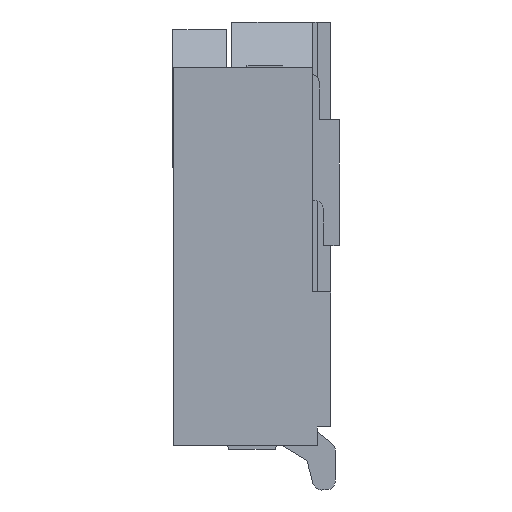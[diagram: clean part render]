
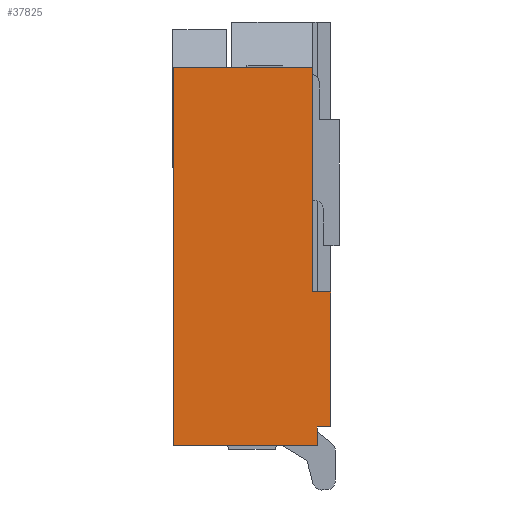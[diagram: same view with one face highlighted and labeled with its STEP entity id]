
A CAD part, left-side view. The second image highlights one B-rep face of the part: STEP entity #37825.
In plain terms, the highlighted planar face has unit normal (-1, 0, 0).
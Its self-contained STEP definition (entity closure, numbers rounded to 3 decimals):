
#5357=DIRECTION('',(0.,0.,-1.));
#5358=VECTOR('',#5357,1.5);
#5359=CARTESIAN_POINT('',(-10.15,-0.875,-0.15));
#5360=LINE('',#5359,#5358);
#6525=DIRECTION('',(0.,-1.,0.));
#6526=VECTOR('',#6525,1.6);
#6527=CARTESIAN_POINT('',(-10.15,0.875,-1.85));
#6528=LINE('',#6527,#6526);
#6529=DIRECTION('',(0.,0.,-1.));
#6530=VECTOR('',#6529,4.2);
#6531=CARTESIAN_POINT('',(-10.15,0.875,2.35));
#6532=LINE('',#6531,#6530);
#6533=DIRECTION('',(0.,1.,0.));
#6534=VECTOR('',#6533,1.55);
#6535=CARTESIAN_POINT('',(-10.15,-0.675,2.35));
#6536=LINE('',#6535,#6534);
#6537=DIRECTION('',(0.,0.,1.));
#6538=VECTOR('',#6537,2.5);
#6539=CARTESIAN_POINT('',(-10.15,-0.675,-0.15));
#6540=LINE('',#6539,#6538);
#6541=DIRECTION('',(0.,1.,0.));
#6542=VECTOR('',#6541,0.2);
#6543=CARTESIAN_POINT('',(-10.15,-0.875,-0.15));
#6544=LINE('',#6543,#6542);
#6545=DIRECTION('',(0.,-1.,0.));
#6546=VECTOR('',#6545,0.15);
#6547=CARTESIAN_POINT('',(-10.15,-0.725,-1.65));
#6548=LINE('',#6547,#6546);
#6549=DIRECTION('',(0.,0.,1.));
#6550=VECTOR('',#6549,0.2);
#6551=CARTESIAN_POINT('',(-10.15,-0.725,-1.85));
#6552=LINE('',#6551,#6550);
#26227=CARTESIAN_POINT('',(-10.15,0.875,2.35));
#26228=CARTESIAN_POINT('',(-10.15,0.875,-1.85));
#26229=VERTEX_POINT('',#26227);
#26230=VERTEX_POINT('',#26228);
#27209=CARTESIAN_POINT('',(-10.15,-0.875,-0.15));
#27210=VERTEX_POINT('',#27209);
#27211=CARTESIAN_POINT('',(-10.15,-0.875,-1.65));
#27212=VERTEX_POINT('',#27211);
#27213=CARTESIAN_POINT('',(-10.15,-0.725,-1.65));
#27214=VERTEX_POINT('',#27213);
#27269=CARTESIAN_POINT('',(-10.15,-0.725,-1.85));
#27270=VERTEX_POINT('',#27269);
#27875=CARTESIAN_POINT('',(-10.15,-0.675,2.35));
#27876=VERTEX_POINT('',#27875);
#27887=CARTESIAN_POINT('',(-10.15,-0.675,-0.15));
#27888=VERTEX_POINT('',#27887);
#37808=CARTESIAN_POINT('',(-10.15,0.875,-4.968));
#37809=DIRECTION('',(-1.,0.,0.));
#37810=DIRECTION('',(0.,0.,1.));
#37811=AXIS2_PLACEMENT_3D('',#37808,#37809,#37810);
#37812=PLANE('',#37811);
#37813=ORIENTED_EDGE('',*,*,#36733,.F.);
#37814=ORIENTED_EDGE('',*,*,#29786,.F.);
#37816=ORIENTED_EDGE('',*,*,#37815,.F.);
#37817=ORIENTED_EDGE('',*,*,#37790,.F.);
#37819=ORIENTED_EDGE('',*,*,#37818,.F.);
#37820=ORIENTED_EDGE('',*,*,#36393,.T.);
#37821=ORIENTED_EDGE('',*,*,#36416,.F.);
#37822=ORIENTED_EDGE('',*,*,#36575,.F.);
#37823=EDGE_LOOP('',(#37813,#37814,#37816,#37817,#37819,#37820,#37821,#37822));
#37824=FACE_OUTER_BOUND('',#37823,.F.);
#37825=ADVANCED_FACE('',(#37824),#37812,.T.);
#29786=EDGE_CURVE('',#26229,#26230,#6532,.T.);
#36393=EDGE_CURVE('',#27210,#27212,#5360,.T.);
#36416=EDGE_CURVE('',#27214,#27212,#6548,.T.);
#36575=EDGE_CURVE('',#27270,#27214,#6552,.T.);
#36733=EDGE_CURVE('',#26230,#27270,#6528,.T.);
#37790=EDGE_CURVE('',#27888,#27876,#6540,.T.);
#37815=EDGE_CURVE('',#27876,#26229,#6536,.T.);
#37818=EDGE_CURVE('',#27210,#27888,#6544,.T.);
